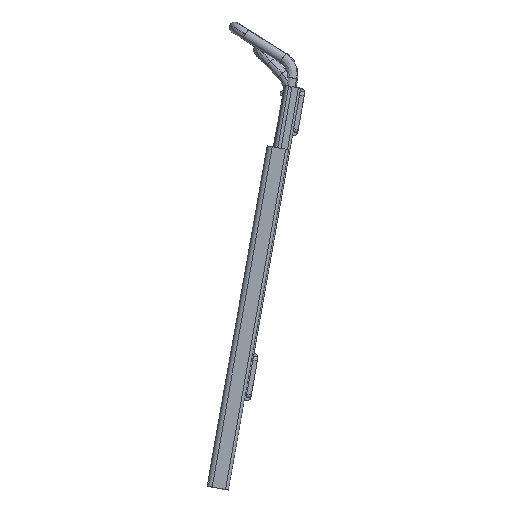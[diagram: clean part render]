
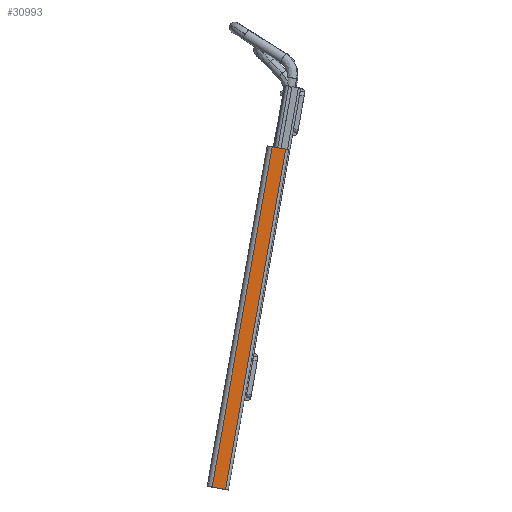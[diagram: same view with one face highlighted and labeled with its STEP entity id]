
A CAD part, front view. The second image highlights one B-rep face of the part: STEP entity #30993.
In plain terms, the highlighted planar face has unit normal (0, -1, 0).
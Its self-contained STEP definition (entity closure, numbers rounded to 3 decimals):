
#30980=AXIS2_PLACEMENT_3D('Plane Axis2P3D',#30977,#30978,#30979) ;
#27952=CARTESIAN_POINT('Vertex',(499.861,-123.7,10.177)) ;
#27955=CARTESIAN_POINT('Line Origine',(492.669,-123.7,11.448)) ;
#27959=CARTESIAN_POINT('Vertex',(485.476,-123.7,12.719)) ;
#29002=CARTESIAN_POINT('Vertex',(550.046,-123.7,378.057)) ;
#29005=CARTESIAN_POINT('Line Origine',(557.239,-123.7,376.786)) ;
#29009=CARTESIAN_POINT('Vertex',(564.431,-123.7,375.515)) ;
#30965=CARTESIAN_POINT('Line Origine',(495.249,-123.7,-15.919)) ;
#30977=CARTESIAN_POINT('Axis2P3D Location',(480.864,-123.7,-13.376)) ;
#30982=CARTESIAN_POINT('Line Origine',(517.761,-123.7,195.388)) ;
#27956=DIRECTION('Vector Direction',(-0.985,0.,0.174)) ;
#29006=DIRECTION('Vector Direction',(0.985,0.,-0.174)) ;
#30966=DIRECTION('Vector Direction',(0.174,0.,0.985)) ;
#30978=DIRECTION('Axis2P3D Direction',(0.,1.,0.)) ;
#30979=DIRECTION('Axis2P3D XDirection',(0.174,0.,0.985)) ;
#30983=DIRECTION('Vector Direction',(0.174,0.,0.985)) ;
#27957=VECTOR('Line Direction',#27956,1.) ;
#29007=VECTOR('Line Direction',#29006,1.) ;
#30967=VECTOR('Line Direction',#30966,1.) ;
#30984=VECTOR('Line Direction',#30983,1.) ;
#30988=ORIENTED_EDGE('',*,*,#30969,.T.) ;
#30989=ORIENTED_EDGE('',*,*,#29011,.F.) ;
#30990=ORIENTED_EDGE('',*,*,#30986,.F.) ;
#30991=ORIENTED_EDGE('',*,*,#27961,.F.) ;
#30993=ADVANCED_FACE('___\\___\\_____\\__\\MANIFOLD_SOLID_BREP #2878',(#30992),#30981,.F.) ;
#27961=EDGE_CURVE('',#27953,#27960,#27958,.T.) ;
#29011=EDGE_CURVE('',#29003,#29010,#29008,.T.) ;
#30969=EDGE_CURVE('',#27953,#29010,#30968,.T.) ;
#30986=EDGE_CURVE('',#27960,#29003,#30985,.T.) ;
#30987=EDGE_LOOP('',(#30988,#30989,#30990,#30991)) ;
#30992=FACE_OUTER_BOUND('',#30987,.T.) ;
#27958=LINE('Line',#27955,#27957) ;
#29008=LINE('Line',#29005,#29007) ;
#30968=LINE('Line',#30965,#30967) ;
#30985=LINE('Line',#30982,#30984) ;
#30981=PLANE('Plane',#30980) ;
#27953=VERTEX_POINT('',#27952) ;
#27960=VERTEX_POINT('',#27959) ;
#29003=VERTEX_POINT('',#29002) ;
#29010=VERTEX_POINT('',#29009) ;
